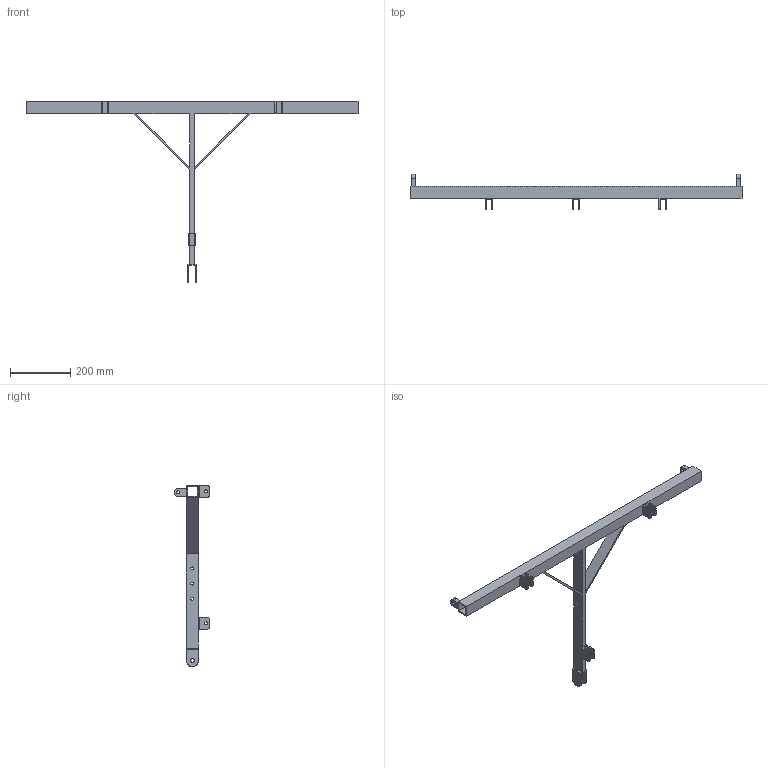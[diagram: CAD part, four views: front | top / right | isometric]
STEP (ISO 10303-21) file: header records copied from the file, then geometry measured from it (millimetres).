
FILE_DESCRIPTION (( 'STEP AP203' ), '1' );
FILE_NAME ('Seeburg_GaleoXT-Transitioncradle.STEP', '2012-10-17T10:25:08', ( 'Fabian' ), ( '' ), 'SwSTEP 2.0', 'SolidWorks 2009', '' );
FILE_SCHEMA (( 'CONFIG_CONTROL_DESIGN' ));
Length unit declared in the file: millimetre
Products named in the file (2): Seeburg_GaleoXT-Transitioncradle; Transitioncradle_GALEO-XT _GALEO
Assembly tree (1 placements, depth 2):
  Seeburg_GaleoXT-Transitioncradle
    Transitioncradle_GALEO-XT _GALEO
Bounding box: 1100 x 118.2 x 600.16 mm (x, y, z)
Volume: 1161310.6 mm3; surface area: 458153.2 mm2
Topology: 1 solids, 1 shells, 111 faces, 351 edges, 244 vertices
Faces by surface type: plane 67, cylinder 44
Entity records: 6328 total; most frequent: CARTESIAN_POINT 3187, ORIENTED_EDGE 702, DIRECTION 462, EDGE_CURVE 351, VERTEX_POINT 244, VECTOR 208, LINE 208, EDGE_LOOP 143
